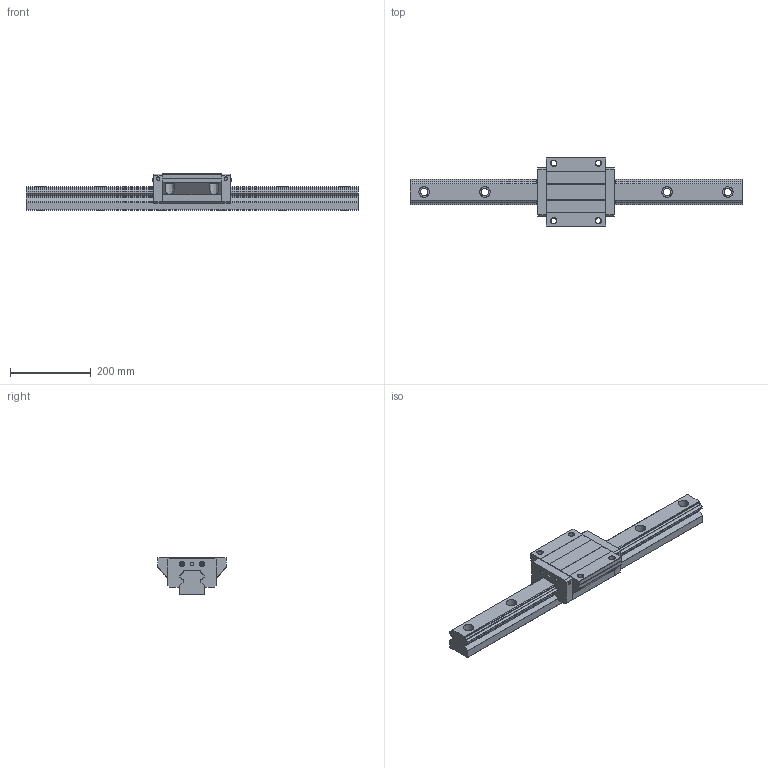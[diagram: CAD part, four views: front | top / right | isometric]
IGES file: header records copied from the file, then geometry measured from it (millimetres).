
Start section: START RECORD GO HERE.
Global section: file name: SBG65_FL.igs; native system: IBM CATIA IGES - CATIA Version 5 Release 16 ; preprocessor: CATIA Version 5 Release 16 ; author: mycom; organization: RD03; date: 20070228.151946; units: millimetre
Bounding box: 820 x 170 x 90 mm (x, y, z)
Surface area: 382691.1 mm2 (no closed solid volume)
Topology: 0 solids, 0 shells, 300 faces, 1608 edges, 1602 vertices
Faces by surface type: revolution 166, plane 134
